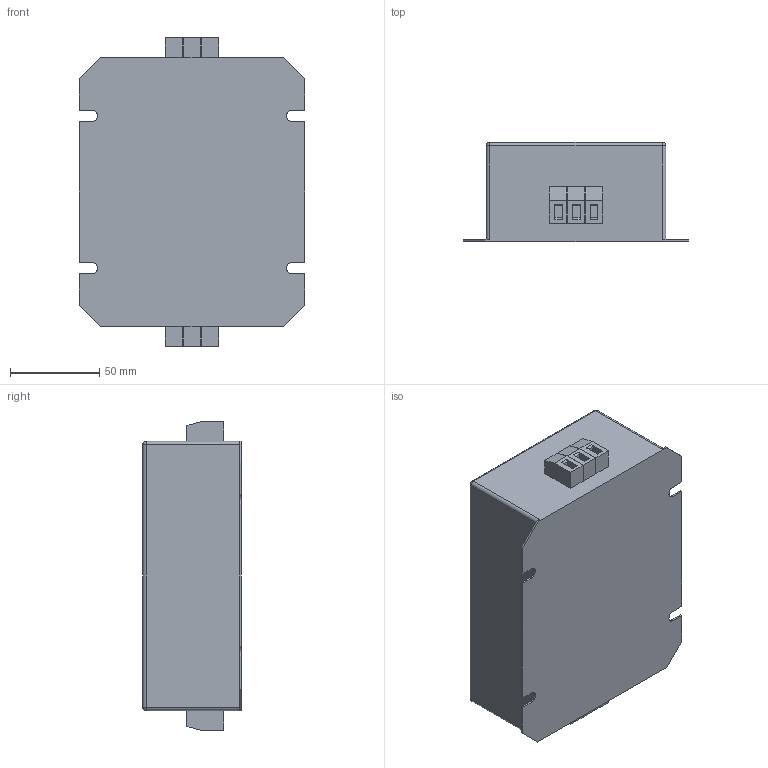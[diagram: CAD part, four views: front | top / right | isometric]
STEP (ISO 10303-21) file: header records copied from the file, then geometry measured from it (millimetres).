
FILE_DESCRIPTION((''),'2;1');
FILE_NAME('L:\INVENTOR_Projektedaten\HousingDesign\FN352Z-10-29.stp','2012-09-03T12:47:14',('Samuel.Meier'),(''),'Autodesk Inventor 2010','Autodesk Inventor 2010','');
FILE_SCHEMA(('AUTOMOTIVE_DESIGN { 1 2 10303 214 0 1 1 1 }'));
Length unit declared in the file: millimetre
Products named in the file (1): Bauteil23
Bounding box: 126 x 55.25 x 172.3 mm (x, y, z)
Volume: 849972.9 mm3; surface area: 68849.7 mm2
Topology: 1 solids, 1 shells, 132 faces, 328 edges, 212 vertices
Faces by surface type: plane 106, cylinder 16, bspline 6, sphere 4
Full cylindrical faces by diameter (mm): 4 x6
Entity records: 4003 total; most frequent: CARTESIAN_POINT 709, ORIENTED_EDGE 636, DIRECTION 608, EDGE_CURVE 318, VECTOR 282, LINE 282, VERTEX_POINT 212, AXIS2_PLACEMENT_3D 163
